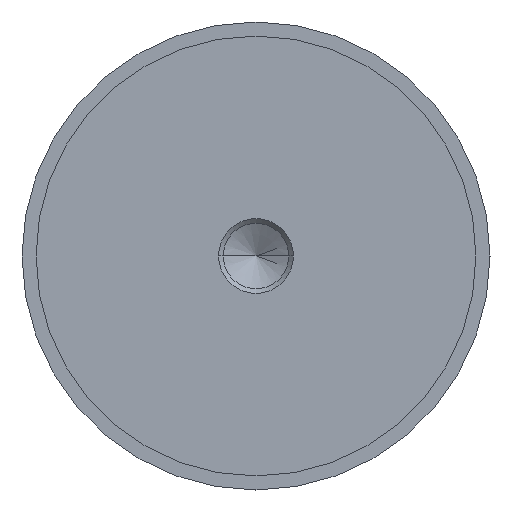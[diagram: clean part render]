
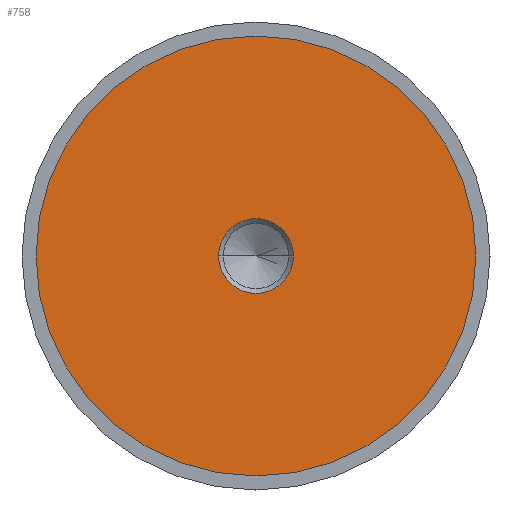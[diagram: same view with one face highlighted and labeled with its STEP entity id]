
A CAD part, left-side view. The second image highlights one B-rep face of the part: STEP entity #758.
In plain terms, the highlighted planar face has unit normal (-1, 0, 0).
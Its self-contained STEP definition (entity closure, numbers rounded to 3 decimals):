
#27 = EDGE_LOOP ( 'NONE', ( #604, #307 ) ) ;
#34 = CIRCLE ( 'NONE', #533, 47. ) ;
#59 = DIRECTION ( 'NONE',  ( 1., 0., 0. ) ) ;
#68 = VERTEX_POINT ( 'NONE', #191 ) ;
#82 = DIRECTION ( 'NONE',  ( 1., 0., 0. ) ) ;
#91 = VERTEX_POINT ( 'NONE', #271 ) ;
#92 = FACE_BOUND ( 'NONE', #27, .T. ) ;
#105 = CARTESIAN_POINT ( 'NONE',  ( -19.99, 47., 0. ) ) ;
#109 = EDGE_CURVE ( 'NONE', #91, #241, #651, .T. ) ;
#160 = FACE_OUTER_BOUND ( 'NONE', #189, .T. ) ;
#189 = EDGE_LOOP ( 'NONE', ( #476, #622 ) ) ;
#191 = CARTESIAN_POINT ( 'NONE',  ( -19.99, 0., 47. ) ) ;
#235 = EDGE_CURVE ( 'NONE', #68, #726, #544, .T. ) ;
#237 = DIRECTION ( 'NONE',  ( 0., 0., 1. ) ) ;
#239 = CARTESIAN_POINT ( 'NONE',  ( -19.99, 0., 0. ) ) ;
#241 = VERTEX_POINT ( 'NONE', #445 ) ;
#268 = CARTESIAN_POINT ( 'NONE',  ( -19.99, 0., 0. ) ) ;
#270 = CARTESIAN_POINT ( 'NONE',  ( -19.99, 0., -47. ) ) ;
#271 = CARTESIAN_POINT ( 'NONE',  ( -19.99, 7.99, 0. ) ) ;
#290 = AXIS2_PLACEMENT_3D ( 'NONE', #268, #82, #496 ) ;
#293 = PLANE ( 'NONE',  #402 ) ;
#302 = DIRECTION ( 'NONE',  ( -1., 0., 0. ) ) ;
#307 = ORIENTED_EDGE ( 'NONE', *, *, #109, .T. ) ;
#339 = DIRECTION ( 'NONE',  ( 1., 0., 0. ) ) ;
#348 = DIRECTION ( 'NONE',  ( 0., 0., -1. ) ) ;
#402 = AXIS2_PLACEMENT_3D ( 'NONE', #105, #339, #348 ) ;
#426 = DIRECTION ( 'NONE',  ( -1., 0., 0. ) ) ;
#445 = CARTESIAN_POINT ( 'NONE',  ( -19.99, -7.99, 0. ) ) ;
#476 = ORIENTED_EDGE ( 'NONE', *, *, #235, .T. ) ;
#495 = CARTESIAN_POINT ( 'NONE',  ( -19.99, 0., 0. ) ) ;
#496 = DIRECTION ( 'NONE',  ( 0., 0., -1. ) ) ;
#533 = AXIS2_PLACEMENT_3D ( 'NONE', #495, #426, #610 ) ;
#544 = CIRCLE ( 'NONE', #730, 47. ) ;
#588 = AXIS2_PLACEMENT_3D ( 'NONE', #239, #59, #733 ) ;
#600 = EDGE_CURVE ( 'NONE', #241, #91, #694, .T. ) ;
#604 = ORIENTED_EDGE ( 'NONE', *, *, #600, .T. ) ;
#605 = EDGE_CURVE ( 'NONE', #726, #68, #34, .T. ) ;
#610 = DIRECTION ( 'NONE',  ( 0., 0., 1. ) ) ;
#622 = ORIENTED_EDGE ( 'NONE', *, *, #605, .T. ) ;
#651 = CIRCLE ( 'NONE', #290, 7.99 ) ;
#694 = CIRCLE ( 'NONE', #588, 7.99 ) ;
#714 = CARTESIAN_POINT ( 'NONE',  ( -19.99, 0., 0. ) ) ;
#726 = VERTEX_POINT ( 'NONE', #270 ) ;
#730 = AXIS2_PLACEMENT_3D ( 'NONE', #714, #302, #237 ) ;
#733 = DIRECTION ( 'NONE',  ( 0., 0., -1. ) ) ;
#758 = ADVANCED_FACE ( 'NONE', ( #92, #160 ), #293, .F. ) ;
